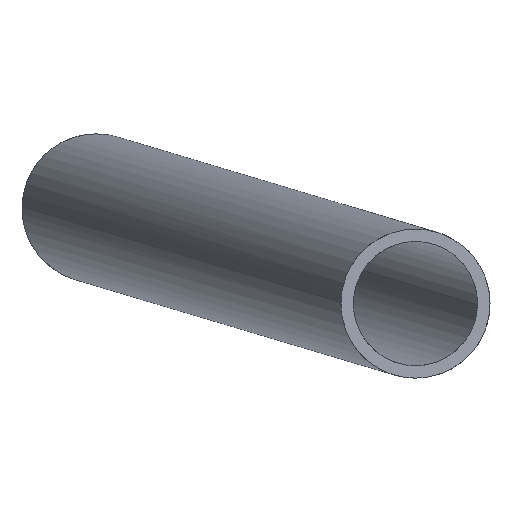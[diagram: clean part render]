
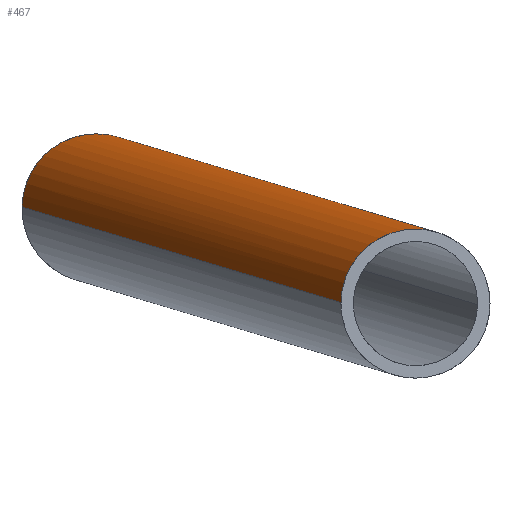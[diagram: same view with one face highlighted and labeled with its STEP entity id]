
A CAD part, left-side view. The second image highlights one B-rep face of the part: STEP entity #467.
In plain terms, the highlighted cylindrical face has radius 30.15 mm (diameter 60.3 mm), a partial arc.
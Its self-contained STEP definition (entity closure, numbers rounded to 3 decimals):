
#4 =( BOUNDED_CURVE ( )  B_SPLINE_CURVE ( 3, ( #384, #388, #389, #390 ),
 .UNSPECIFIED., .F., .T. ) 
 B_SPLINE_CURVE_WITH_KNOTS ( ( 4, 4 ),
 ( 1.861, 3.415 ),
 .UNSPECIFIED. ) 
 CURVE ( )  GEOMETRIC_REPRESENTATION_ITEM ( )  RATIONAL_B_SPLINE_CURVE ( ( 1., 0.809, 0.809, 1. ) ) 
 REPRESENTATION_ITEM ( '' )  );
#5 =( BOUNDED_CURVE ( )  B_SPLINE_CURVE ( 3, ( #374, #381, #382, #383 ),
 .UNSPECIFIED., .F., .F. ) 
 B_SPLINE_CURVE_WITH_KNOTS ( ( 4, 4 ),
 ( 0.273, 1.861 ),
 .UNSPECIFIED. ) 
 CURVE ( )  GEOMETRIC_REPRESENTATION_ITEM ( )  RATIONAL_B_SPLINE_CURVE ( ( 1., 0.801, 0.801, 1. ) ) 
 REPRESENTATION_ITEM ( '' )  );
#6 =( BOUNDED_CURVE ( )  B_SPLINE_CURVE ( 3, ( #371, #375, #376, #377 ),
 .UNSPECIFIED., .F., .T. ) 
 B_SPLINE_CURVE_WITH_KNOTS ( ( 4, 4 ),
 ( 4.422, 6.01 ),
 .UNSPECIFIED. ) 
 CURVE ( )  GEOMETRIC_REPRESENTATION_ITEM ( )  RATIONAL_B_SPLINE_CURVE ( ( 1., 0.801, 0.801, 1. ) ) 
 REPRESENTATION_ITEM ( '' )  );
#13 =( BOUNDED_CURVE ( )  B_SPLINE_CURVE ( 3, ( #116, #132, #133, #134 ),
 .UNSPECIFIED., .F., .T. ) 
 B_SPLINE_CURVE_WITH_KNOTS ( ( 4, 4 ),
 ( 2.868, 4.422 ),
 .UNSPECIFIED. ) 
 CURVE ( )  GEOMETRIC_REPRESENTATION_ITEM ( )  RATIONAL_B_SPLINE_CURVE ( ( 1., 0.809, 0.809, 1. ) ) 
 REPRESENTATION_ITEM ( '' )  );
#26 = FACE_OUTER_BOUND ( 'NONE', #276, .T. ) ;
#31 = CYLINDRICAL_SURFACE ( 'NONE', #82, 30.15 ) ;
#37 = VECTOR ( 'NONE', #367, 1000. ) ;
#38 = LINE ( 'NONE', #366, #37 ) ;
#74 = EDGE_CURVE ( 'NONE', #209, #208, #315, .T. ) ;
#82 = AXIS2_PLACEMENT_3D ( 'NONE', #426, #425, #424 ) ;
#116 = CARTESIAN_POINT ( 'NONE',  ( -235.157, 30.146, 0.508 ) ) ;
#117 = CARTESIAN_POINT ( 'NONE',  ( -220.002, -28.444, 0. ) ) ;
#119 = VERTEX_POINT ( 'NONE', #150 ) ;
#132 = CARTESIAN_POINT ( 'NONE',  ( -235.992, 29.852, 17.932 ) ) ;
#133 = CARTESIAN_POINT ( 'NONE',  ( -234.498, 17.426, 30.15 ) ) ;
#134 = CARTESIAN_POINT ( 'NONE',  ( -231.532, 0., 30.15 ) ) ;
#150 = CARTESIAN_POINT ( 'NONE',  ( -235.157, 30.146, 0.508 ) ) ;
#171 = EDGE_CURVE ( 'NONE', #119, #193, #13, .T. ) ;
#183 = EDGE_CURVE ( 'NONE', #119, #206, #38, .T. ) ;
#186 = EDGE_CURVE ( 'NONE', #193, #209, #6, .T. ) ;
#188 = EDGE_CURVE ( 'NONE', #208, #207, #5, .T. ) ;
#190 = EDGE_CURVE ( 'NONE', #207, #206, #4, .T. ) ;
#193 = VERTEX_POINT ( 'NONE', #391 ) ;
#206 = VERTEX_POINT ( 'NONE', #410 ) ;
#207 = VERTEX_POINT ( 'NONE', #411 ) ;
#208 = VERTEX_POINT ( 'NONE', #412 ) ;
#209 = VERTEX_POINT ( 'NONE', #413 ) ;
#222 = DIRECTION ( 'NONE',  ( -0.939, -0.33, -0.098 ) ) ;
#228 = ORIENTED_EDGE ( 'NONE', *, *, #183, .T. ) ;
#239 = ORIENTED_EDGE ( 'NONE', *, *, #171, .F. ) ;
#240 = ORIENTED_EDGE ( 'NONE', *, *, #190, .F. ) ;
#245 = ORIENTED_EDGE ( 'NONE', *, *, #186, .F. ) ;
#246 = ORIENTED_EDGE ( 'NONE', *, *, #74, .F. ) ;
#248 = ORIENTED_EDGE ( 'NONE', *, *, #188, .F. ) ;
#276 = EDGE_LOOP ( 'NONE', ( #239, #228, #240, #248, #246, #245 ) ) ;
#313 = VECTOR ( 'NONE', #222, 1000. ) ;
#315 = LINE ( 'NONE', #117, #313 ) ;
#366 = CARTESIAN_POINT ( 'NONE',  ( -239.998, 28.444, 0. ) ) ;
#367 = DIRECTION ( 'NONE',  ( -0.939, -0.33, -0.098 ) ) ;
#371 = CARTESIAN_POINT ( 'NONE',  ( -231.532, 0., 30.15 ) ) ;
#374 = CARTESIAN_POINT ( 'NONE',  ( -591.843, -159.146, -39.008 ) ) ;
#375 = CARTESIAN_POINT ( 'NONE',  ( -228.485, -17.898, 30.15 ) ) ;
#376 = CARTESIAN_POINT ( 'NONE',  ( -225.701, -30.447, 17.388 ) ) ;
#377 = CARTESIAN_POINT ( 'NONE',  ( -224.843, -30.146, -0.508 ) ) ;
#381 = CARTESIAN_POINT ( 'NONE',  ( -592.701, -159.447, -21.112 ) ) ;
#382 = CARTESIAN_POINT ( 'NONE',  ( -595.485, -146.898, -8.35 ) ) ;
#383 = CARTESIAN_POINT ( 'NONE',  ( -598.532, -129., -8.35 ) ) ;
#384 = CARTESIAN_POINT ( 'NONE',  ( -598.532, -129., -8.35 ) ) ;
#388 = CARTESIAN_POINT ( 'NONE',  ( -601.498, -111.574, -8.35 ) ) ;
#389 = CARTESIAN_POINT ( 'NONE',  ( -602.992, -99.148, -20.568 ) ) ;
#390 = CARTESIAN_POINT ( 'NONE',  ( -602.157, -98.854, -37.992 ) ) ;
#391 = CARTESIAN_POINT ( 'NONE',  ( -231.532, 0., 30.15 ) ) ;
#410 = CARTESIAN_POINT ( 'NONE',  ( -602.157, -98.854, -37.992 ) ) ;
#411 = CARTESIAN_POINT ( 'NONE',  ( -598.532, -129., -8.35 ) ) ;
#412 = CARTESIAN_POINT ( 'NONE',  ( -591.843, -159.146, -39.008 ) ) ;
#413 = CARTESIAN_POINT ( 'NONE',  ( -224.843, -30.146, -0.508 ) ) ;
#424 = DIRECTION ( 'NONE',  ( 0.332, -0.943, 0. ) ) ;
#425 = DIRECTION ( 'NONE',  ( -0.939, -0.33, -0.098 ) ) ;
#426 = CARTESIAN_POINT ( 'NONE',  ( -230., 0., 0. ) ) ;
#467 = ADVANCED_FACE ( 'NONE', ( #26 ), #31, .T. ) ;
